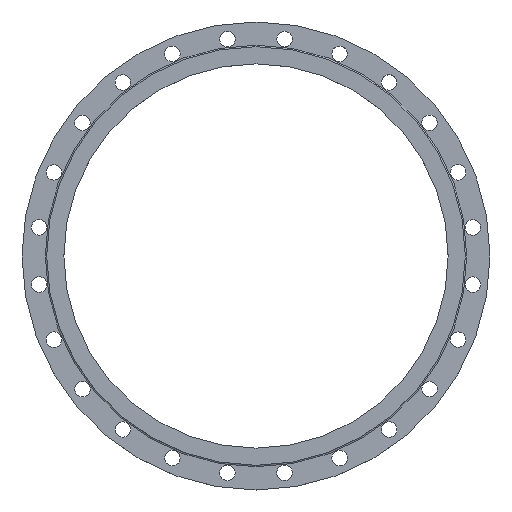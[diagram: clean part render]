
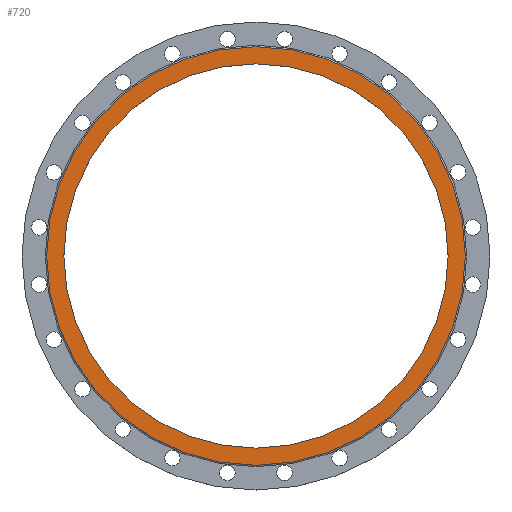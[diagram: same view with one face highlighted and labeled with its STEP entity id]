
A CAD part, top view. The second image highlights one B-rep face of the part: STEP entity #720.
In plain terms, the highlighted planar face has unit normal (0, 0, 1).
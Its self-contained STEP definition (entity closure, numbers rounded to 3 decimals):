
#124=FACE_BOUND('',#239,.T.);
#179=FACE_OUTER_BOUND('',#238,.T.);
#238=EDGE_LOOP('',(#643,#644));
#239=EDGE_LOOP('',(#645,#646));
#297=CIRCLE('',#775,445.);
#298=CIRCLE('',#776,445.);
#329=CIRCLE('',#834,408.5);
#330=CIRCLE('',#835,408.5);
#364=VERTEX_POINT('',#1135);
#365=VERTEX_POINT('',#1137);
#396=VERTEX_POINT('',#1252);
#397=VERTEX_POINT('',#1254);
#431=EDGE_CURVE('',#365,#364,#297,.T.);
#432=EDGE_CURVE('',#364,#365,#298,.T.);
#489=EDGE_CURVE('',#397,#396,#329,.T.);
#490=EDGE_CURVE('',#396,#397,#330,.T.);
#643=ORIENTED_EDGE('',*,*,#431,.T.);
#644=ORIENTED_EDGE('',*,*,#432,.T.);
#645=ORIENTED_EDGE('',*,*,#489,.T.);
#646=ORIENTED_EDGE('',*,*,#490,.T.);
#689=PLANE('',#836);
#720=ADVANCED_FACE('',(#179,#124),#689,.T.);
#775=AXIS2_PLACEMENT_3D('',#1138,#909,#910);
#776=AXIS2_PLACEMENT_3D('',#1139,#911,#912);
#834=AXIS2_PLACEMENT_3D('',#1255,#1053,#1054);
#835=AXIS2_PLACEMENT_3D('',#1256,#1055,#1056);
#836=AXIS2_PLACEMENT_3D('',#1257,#1057,#1058);
#909=DIRECTION('center_axis',(0.,0.,1.));
#910=DIRECTION('ref_axis',(-1.,0.,0.));
#911=DIRECTION('center_axis',(0.,0.,1.));
#912=DIRECTION('ref_axis',(-1.,0.,0.));
#1053=DIRECTION('center_axis',(0.,0.,-1.));
#1054=DIRECTION('ref_axis',(1.,0.,0.));
#1055=DIRECTION('center_axis',(0.,0.,-1.));
#1056=DIRECTION('ref_axis',(1.,0.,0.));
#1057=DIRECTION('center_axis',(0.,0.,1.));
#1058=DIRECTION('ref_axis',(1.,0.,0.));
#1135=CARTESIAN_POINT('',(445.,0.,0.));
#1137=CARTESIAN_POINT('',(-445.,0.,0.));
#1138=CARTESIAN_POINT('Origin',(0.,0.,0.));
#1139=CARTESIAN_POINT('Origin',(0.,0.,0.));
#1252=CARTESIAN_POINT('',(408.5,0.,0.));
#1254=CARTESIAN_POINT('',(-408.5,0.,0.));
#1255=CARTESIAN_POINT('Origin',(0.,0.,0.));
#1256=CARTESIAN_POINT('Origin',(0.,0.,0.));
#1257=CARTESIAN_POINT('Origin',(-497.5,0.,0.));
